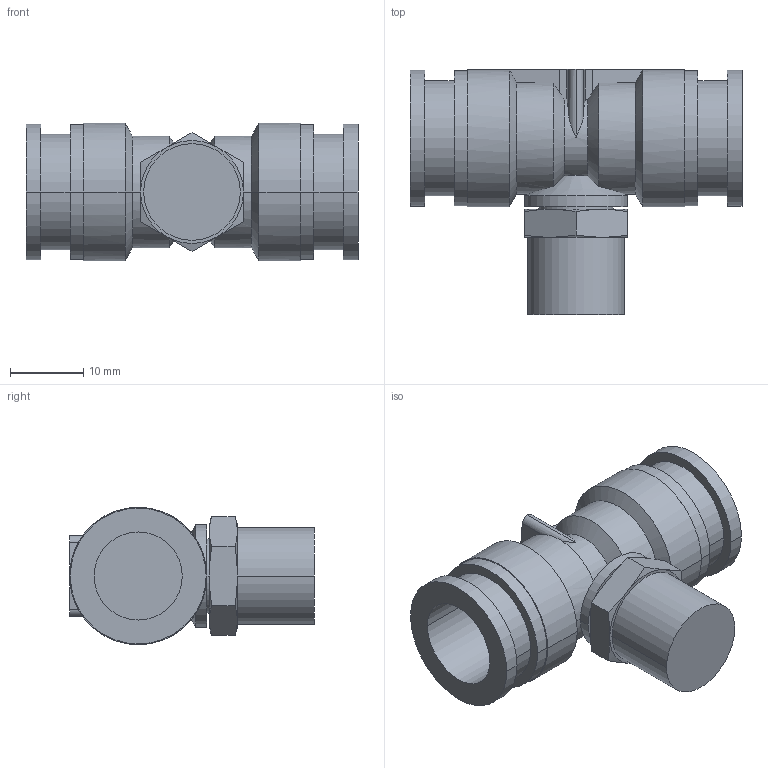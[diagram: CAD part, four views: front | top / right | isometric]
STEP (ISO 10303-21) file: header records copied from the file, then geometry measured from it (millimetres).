
FILE_DESCRIPTION( ( '' ), '1' );
FILE_NAME( 'G:/SMC狟婥/KQ2T12-02AS.stp', '2023-03-07T03:13:20', ( '' ), ( '' ), ' ', ' ', ' ' );
FILE_SCHEMA( ( 'CONFIG_CONTROL_DESIGN' ) );
Length unit declared in the file: millimetre
Products named in the file (1): 1
Bounding box: 45.2 x 33.35 x 18.7 mm (x, y, z)
Volume: 8159.6 mm3; surface area: 5962.2 mm2
Topology: 1 solids, 1 shells, 97 faces, 228 edges, 144 vertices
Faces by surface type: cylinder 40, plane 35, cone 22
Entity records: 3021 total; most frequent: CARTESIAN_POINT 801, DIRECTION 470, ORIENTED_EDGE 456, EDGE_CURVE 228, AXIS2_PLACEMENT_3D 198, VERTEX_POINT 144, EDGE_LOOP 108, ADVANCED_FACE 97
